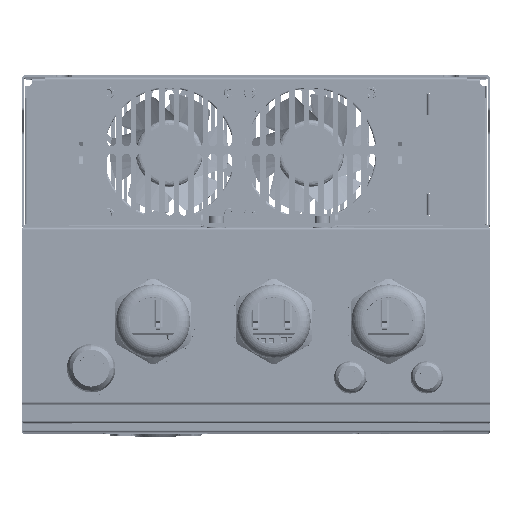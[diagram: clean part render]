
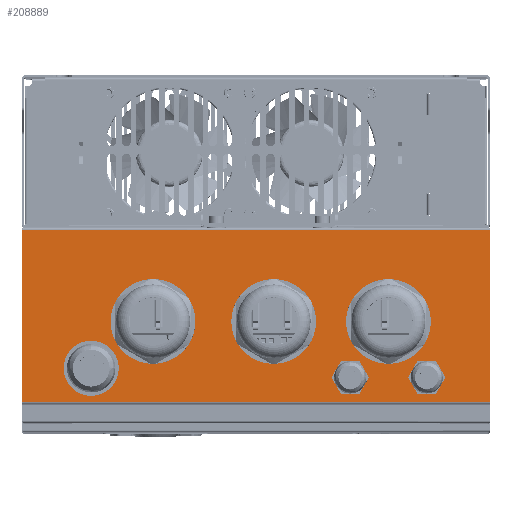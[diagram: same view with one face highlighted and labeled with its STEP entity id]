
A CAD part, top view. The second image highlights one B-rep face of the part: STEP entity #208889.
In plain terms, the highlighted planar face has unit normal (0, 0, 1) as drawn and (-1, 0, 0) by its records, which use the part's own axes.
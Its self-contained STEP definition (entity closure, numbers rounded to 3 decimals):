
#200656=CARTESIAN_POINT('',(-382.3,1.7,-159.));
#200658=DIRECTION('',(0.,0.,1.));
#200659=VECTOR('',#200658,318.);
#200660=CARTESIAN_POINT('',(-382.3,1.7,-159.));
#200661=LINE('',#200660,#200659);
#200662=CARTESIAN_POINT('',(-382.3,1.7,159.));
#201098=DIRECTION('',(0.,0.,-1.));
#201099=VECTOR('',#201098,318.);
#201100=CARTESIAN_POINT('',(-382.3,118.7,159.));
#201101=LINE('',#201100,#201099);
#201102=CARTESIAN_POINT('',(-382.3,63.982,70.));
#201103=DIRECTION('',(-1.,0.,0.));
#201104=DIRECTION('',(0.,0.,-1.));
#201105=AXIS2_PLACEMENT_3D('',#201102,#201103,#201104);
#201107=CARTESIAN_POINT('',(-382.3,63.982,70.));
#201108=DIRECTION('',(-1.,0.,0.));
#201109=DIRECTION('',(0.,0.,1.));
#201110=AXIS2_PLACEMENT_3D('',#201107,#201108,#201109);
#201112=CARTESIAN_POINT('',(-382.3,102.,-116.));
#201113=DIRECTION('',(-1.,0.,0.));
#201114=DIRECTION('',(0.,0.,-1.));
#201115=AXIS2_PLACEMENT_3D('',#201112,#201113,#201114);
#201117=CARTESIAN_POINT('',(-382.3,102.,-116.));
#201118=DIRECTION('',(-1.,0.,0.));
#201119=DIRECTION('',(0.,0.,1.));
#201120=AXIS2_PLACEMENT_3D('',#201117,#201118,#201119);
#201122=CARTESIAN_POINT('',(-382.3,64.,-12.));
#201123=DIRECTION('',(-1.,0.,0.));
#201124=DIRECTION('',(0.,0.,-1.));
#201125=AXIS2_PLACEMENT_3D('',#201122,#201123,#201124);
#201127=CARTESIAN_POINT('',(-382.3,64.,-12.));
#201128=DIRECTION('',(-1.,0.,0.));
#201129=DIRECTION('',(0.,0.,1.));
#201130=AXIS2_PLACEMENT_3D('',#201127,#201128,#201129);
#201132=CARTESIAN_POINT('',(-382.3,64.,-90.));
#201133=DIRECTION('',(-1.,0.,0.));
#201134=DIRECTION('',(0.,0.,-1.));
#201135=AXIS2_PLACEMENT_3D('',#201132,#201133,#201134);
#201137=CARTESIAN_POINT('',(-382.3,64.,-90.));
#201138=DIRECTION('',(-1.,0.,0.));
#201139=DIRECTION('',(0.,0.,1.));
#201140=AXIS2_PLACEMENT_3D('',#201137,#201138,#201139);
#201142=CARTESIAN_POINT('',(-382.3,102.,-64.));
#201143=DIRECTION('',(-1.,0.,0.));
#201144=DIRECTION('',(0.,0.,-1.));
#201145=AXIS2_PLACEMENT_3D('',#201142,#201143,#201144);
#201147=CARTESIAN_POINT('',(-382.3,102.,-64.));
#201148=DIRECTION('',(-1.,0.,0.));
#201149=DIRECTION('',(0.,0.,1.));
#201150=AXIS2_PLACEMENT_3D('',#201147,#201148,#201149);
#201152=CARTESIAN_POINT('',(-382.3,95.8,112.));
#201153=DIRECTION('',(-1.,0.,0.));
#201154=DIRECTION('',(0.,0.,-1.));
#201155=AXIS2_PLACEMENT_3D('',#201152,#201153,#201154);
#201157=CARTESIAN_POINT('',(-382.3,95.8,112.));
#201158=DIRECTION('',(-1.,0.,0.));
#201159=DIRECTION('',(0.,0.,1.));
#201160=AXIS2_PLACEMENT_3D('',#201157,#201158,#201159);
#201162=DIRECTION('',(0.,-1.,0.));
#201163=VECTOR('',#201162,117.);
#201164=CARTESIAN_POINT('',(-382.3,118.7,-159.));
#201165=LINE('',#201164,#201163);
#201192=DIRECTION('',(0.,1.,0.));
#201193=VECTOR('',#201192,117.);
#201194=CARTESIAN_POINT('',(-382.3,1.7,159.));
#201195=LINE('',#201194,#201193);
#205674=VERTEX_POINT('',#200662);
#205679=VERTEX_POINT('',#200656);
#205801=CARTESIAN_POINT('',(-382.3,118.7,159.));
#205802=VERTEX_POINT('',#205801);
#205803=CARTESIAN_POINT('',(-382.3,118.7,-159.));
#205804=VERTEX_POINT('',#205803);
#205805=CARTESIAN_POINT('',(-382.3,63.982,49.75));
#205806=CARTESIAN_POINT('',(-382.3,63.982,90.25));
#205807=VERTEX_POINT('',#205805);
#205808=VERTEX_POINT('',#205806);
#205809=CARTESIAN_POINT('',(-382.3,102.,-124.25));
#205810=CARTESIAN_POINT('',(-382.3,102.,-107.75));
#205811=VERTEX_POINT('',#205809);
#205812=VERTEX_POINT('',#205810);
#205813=CARTESIAN_POINT('',(-382.3,64.,-32.25));
#205814=CARTESIAN_POINT('',(-382.3,64.,8.25));
#205815=VERTEX_POINT('',#205813);
#205816=VERTEX_POINT('',#205814);
#205817=CARTESIAN_POINT('',(-382.3,64.,-110.25));
#205818=CARTESIAN_POINT('',(-382.3,64.,-69.75));
#205819=VERTEX_POINT('',#205817);
#205820=VERTEX_POINT('',#205818);
#205821=CARTESIAN_POINT('',(-382.3,102.,-72.25));
#205822=CARTESIAN_POINT('',(-382.3,102.,-55.75));
#205823=VERTEX_POINT('',#205821);
#205824=VERTEX_POINT('',#205822);
#205825=CARTESIAN_POINT('',(-382.3,95.8,99.25));
#205826=CARTESIAN_POINT('',(-382.3,95.8,124.75));
#205827=VERTEX_POINT('',#205825);
#205828=VERTEX_POINT('',#205826);
#208840=CARTESIAN_POINT('',(-382.3,0.,157.8));
#208841=DIRECTION('',(-1.,0.,0.));
#208842=DIRECTION('',(0.,0.,1.));
#208843=AXIS2_PLACEMENT_3D('',#208840,#208841,#208842);
#208844=PLANE('',#208843);
#208845=ORIENTED_EDGE('',*,*,#208209,.F.);
#208847=ORIENTED_EDGE('',*,*,#208846,.F.);
#208848=ORIENTED_EDGE('',*,*,#208833,.F.);
#208850=ORIENTED_EDGE('',*,*,#208849,.F.);
#208851=EDGE_LOOP('',(#208845,#208847,#208848,#208850));
#208852=FACE_OUTER_BOUND('',#208851,.F.);
#208854=ORIENTED_EDGE('',*,*,#208853,.T.);
#208856=ORIENTED_EDGE('',*,*,#208855,.T.);
#208857=EDGE_LOOP('',(#208854,#208856));
#208858=FACE_BOUND('',#208857,.F.);
#208860=ORIENTED_EDGE('',*,*,#208859,.T.);
#208862=ORIENTED_EDGE('',*,*,#208861,.T.);
#208863=EDGE_LOOP('',(#208860,#208862));
#208864=FACE_BOUND('',#208863,.F.);
#208866=ORIENTED_EDGE('',*,*,#208865,.T.);
#208868=ORIENTED_EDGE('',*,*,#208867,.T.);
#208869=EDGE_LOOP('',(#208866,#208868));
#208870=FACE_BOUND('',#208869,.F.);
#208872=ORIENTED_EDGE('',*,*,#208871,.T.);
#208874=ORIENTED_EDGE('',*,*,#208873,.T.);
#208875=EDGE_LOOP('',(#208872,#208874));
#208876=FACE_BOUND('',#208875,.F.);
#208878=ORIENTED_EDGE('',*,*,#208877,.T.);
#208880=ORIENTED_EDGE('',*,*,#208879,.T.);
#208881=EDGE_LOOP('',(#208878,#208880));
#208882=FACE_BOUND('',#208881,.F.);
#208884=ORIENTED_EDGE('',*,*,#208883,.T.);
#208886=ORIENTED_EDGE('',*,*,#208885,.T.);
#208887=EDGE_LOOP('',(#208884,#208886));
#208888=FACE_BOUND('',#208887,.F.);
#208889=ADVANCED_FACE('',(#208852,#208858,#208864,#208870,#208876,#208882,
#208888),#208844,.T.);
#201106=CIRCLE('',#201105,20.25);
#201111=CIRCLE('',#201110,20.25);
#201116=CIRCLE('',#201115,8.25);
#201121=CIRCLE('',#201120,8.25);
#201126=CIRCLE('',#201125,20.25);
#201131=CIRCLE('',#201130,20.25);
#201136=CIRCLE('',#201135,20.25);
#201141=CIRCLE('',#201140,20.25);
#201146=CIRCLE('',#201145,8.25);
#201151=CIRCLE('',#201150,8.25);
#201156=CIRCLE('',#201155,12.75);
#201161=CIRCLE('',#201160,12.75);
#208209=EDGE_CURVE('',#205679,#205674,#200661,.T.);
#208833=EDGE_CURVE('',#205802,#205804,#201101,.T.);
#208846=EDGE_CURVE('',#205804,#205679,#201165,.T.);
#208849=EDGE_CURVE('',#205674,#205802,#201195,.T.);
#208853=EDGE_CURVE('',#205807,#205808,#201106,.T.);
#208855=EDGE_CURVE('',#205808,#205807,#201111,.T.);
#208859=EDGE_CURVE('',#205811,#205812,#201116,.T.);
#208861=EDGE_CURVE('',#205812,#205811,#201121,.T.);
#208865=EDGE_CURVE('',#205815,#205816,#201126,.T.);
#208867=EDGE_CURVE('',#205816,#205815,#201131,.T.);
#208871=EDGE_CURVE('',#205819,#205820,#201136,.T.);
#208873=EDGE_CURVE('',#205820,#205819,#201141,.T.);
#208877=EDGE_CURVE('',#205823,#205824,#201146,.T.);
#208879=EDGE_CURVE('',#205824,#205823,#201151,.T.);
#208883=EDGE_CURVE('',#205827,#205828,#201156,.T.);
#208885=EDGE_CURVE('',#205828,#205827,#201161,.T.);
